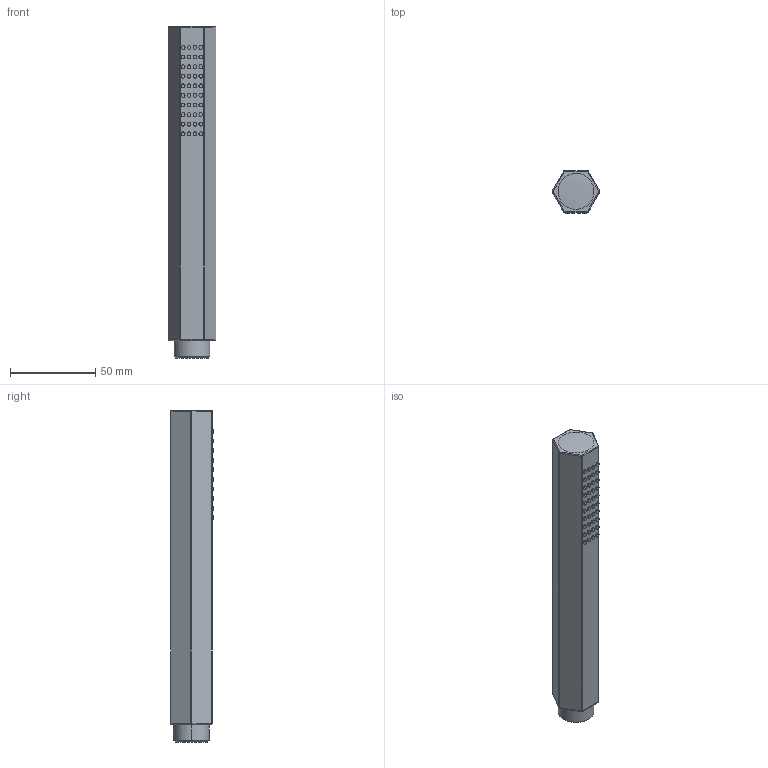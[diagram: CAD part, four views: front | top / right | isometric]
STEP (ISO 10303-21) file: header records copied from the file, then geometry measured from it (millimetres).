
FILE_DESCRIPTION((''),'2;1');
FILE_NAME('ASM0001_SW0001','2022-07-08T16:35:08',('Elia'),(''),'CREO PARAMETRIC BY PTC INC, 2021424','CREO PARAMETRIC BY PTC INC, 2021424','');
FILE_SCHEMA(('AUTOMOTIVE_DESIGN { 1 0 10303 214 1 1 1 1 }'));
Length unit declared in the file: millimetre
Products named in the file (1): ASM0001_SW0001
Bounding box: 27.85 x 24.95 x 194.18 mm (x, y, z)
Volume: 97193.9 mm3; surface area: 17163.4 mm2
Topology: 1 solids, 1 shells, 164 faces, 350 edges, 220 vertices
Faces by surface type: cylinder 100, plane 49, sphere 7, bspline 6, cone 2
Entity records: 6612 total; most frequent: CARTESIAN_POINT 1617, DIRECTION 855, ORIENTED_EDGE 680, AXIS2_PLACEMENT_3D 366, EDGE_CURVE 340, VERTEX_POINT 220, EDGE_LOOP 206, CIRCLE 198
